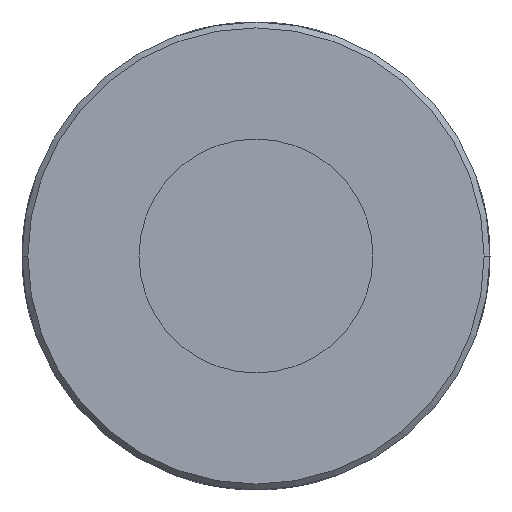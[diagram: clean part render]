
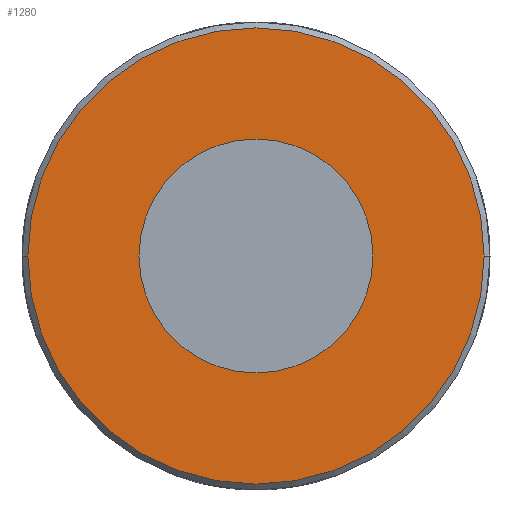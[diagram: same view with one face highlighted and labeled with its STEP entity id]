
A CAD part, left-side view. The second image highlights one B-rep face of the part: STEP entity #1280.
In plain terms, the highlighted planar face has unit normal (-1, 0, 0).
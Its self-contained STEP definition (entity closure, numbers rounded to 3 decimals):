
#727=CARTESIAN_POINT('',(0.,0.,0.));
#728=DIRECTION('',(1.,0.,0.));
#729=DIRECTION('',(0.,1.,0.));
#730=AXIS2_PLACEMENT_3D('',#727,#728,#729);
#735=CARTESIAN_POINT('',(0.,0.,0.));
#736=DIRECTION('',(-1.,0.,0.));
#737=DIRECTION('',(0.,1.,0.));
#738=AXIS2_PLACEMENT_3D('',#735,#736,#737);
#757=CARTESIAN_POINT('',(0.,0.,0.));
#758=DIRECTION('',(-1.,0.,0.));
#759=DIRECTION('',(0.,1.,0.));
#760=AXIS2_PLACEMENT_3D('',#757,#758,#759);
#765=CARTESIAN_POINT('',(0.,0.,0.));
#766=DIRECTION('',(1.,0.,0.));
#767=DIRECTION('',(0.,1.,0.));
#768=AXIS2_PLACEMENT_3D('',#765,#766,#767);
#851=CARTESIAN_POINT('',(0.,19.5,0.));
#852=VERTEX_POINT('',#851);
#853=CARTESIAN_POINT('',(0.,10.,0.));
#855=VERTEX_POINT('',#853);
#873=CARTESIAN_POINT('',(0.,-19.5,0.));
#874=VERTEX_POINT('',#873);
#875=CARTESIAN_POINT('',(0.,-10.,0.));
#877=VERTEX_POINT('',#875);
#1265=CARTESIAN_POINT('',(0.,0.,0.));
#1266=DIRECTION('',(1.,0.,0.));
#1267=DIRECTION('',(0.,-1.,0.));
#1268=AXIS2_PLACEMENT_3D('',#1265,#1266,#1267);
#1269=PLANE('',#1268);
#1270=ORIENTED_EDGE('',*,*,#1247,.T.);
#1271=ORIENTED_EDGE('',*,*,#1258,.F.);
#1272=EDGE_LOOP('',(#1270,#1271));
#1273=FACE_OUTER_BOUND('',#1272,.F.);
#1275=ORIENTED_EDGE('',*,*,#1274,.T.);
#1277=ORIENTED_EDGE('',*,*,#1276,.F.);
#1278=EDGE_LOOP('',(#1275,#1277));
#1279=FACE_BOUND('',#1278,.F.);
#731=CIRCLE('',#730,19.5);
#739=CIRCLE('',#738,19.5);
#761=CIRCLE('',#760,10.);
#769=CIRCLE('',#768,10.);
#1247=EDGE_CURVE('',#852,#874,#731,.T.);
#1258=EDGE_CURVE('',#852,#874,#739,.T.);
#1274=EDGE_CURVE('',#855,#877,#761,.T.);
#1276=EDGE_CURVE('',#855,#877,#769,.T.);
#1280=ADVANCED_FACE('',(#1273,#1279),#1269,.F.);
